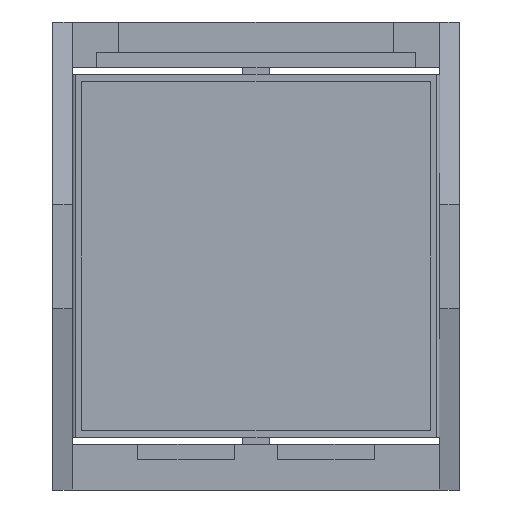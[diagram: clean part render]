
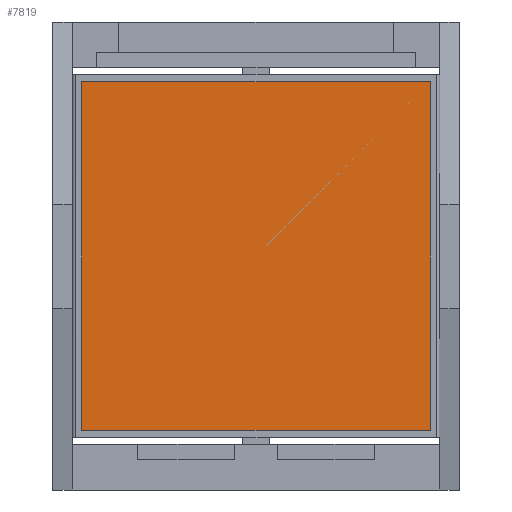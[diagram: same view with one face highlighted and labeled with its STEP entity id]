
A CAD part, front view. The second image highlights one B-rep face of the part: STEP entity #7819.
In plain terms, the highlighted planar face has unit normal (0, -1, 0).
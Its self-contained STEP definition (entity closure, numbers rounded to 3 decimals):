
#175 = CARTESIAN_POINT ( 'NONE',  ( 12.7, -0.127, 12.7 ) ) ;
#406 = CARTESIAN_POINT ( 'NONE',  ( 12.7, -0.127, -12.7 ) ) ;
#610 = CARTESIAN_POINT ( 'NONE',  ( -12.7, -0.127, -12.7 ) ) ;
#647 = CARTESIAN_POINT ( 'NONE',  ( 12.7, -0.127, -12.7 ) ) ;
#854 = ORIENTED_EDGE ( 'NONE', *, *, #2829, .F. ) ;
#1001 = ORIENTED_EDGE ( 'NONE', *, *, #4294, .F. ) ;
#1225 = LINE ( 'NONE', #406, #2814 ) ;
#1683 = CARTESIAN_POINT ( 'NONE',  ( -12.7, -0.127, 12.7 ) ) ;
#1789 = DIRECTION ( 'NONE',  ( 0., 1., 0. ) ) ;
#1914 = ORIENTED_EDGE ( 'NONE', *, *, #6396, .F. ) ;
#1966 = VERTEX_POINT ( 'NONE', #7889 ) ;
#2528 = LINE ( 'NONE', #5643, #6627 ) ;
#2691 = EDGE_CURVE ( 'NONE', #5415, #8081, #1225, .T. ) ;
#2814 = VECTOR ( 'NONE', #2914, 1000. ) ;
#2829 = EDGE_CURVE ( 'NONE', #8081, #1966, #7573, .T. ) ;
#2914 = DIRECTION ( 'NONE',  ( 0., 0., -1. ) ) ;
#3124 = DIRECTION ( 'NONE',  ( -1., 0., 0. ) ) ;
#3493 = CARTESIAN_POINT ( 'NONE',  ( -12.7, -0.127, -12.7 ) ) ;
#3620 = ORIENTED_EDGE ( 'NONE', *, *, #2691, .F. ) ;
#3758 = CARTESIAN_POINT ( 'NONE',  ( -12.7, -0.127, 12.7 ) ) ;
#4263 = VECTOR ( 'NONE', #6564, 1000. ) ;
#4294 = EDGE_CURVE ( 'NONE', #1966, #7960, #7171, .T. ) ;
#5201 = DIRECTION ( 'NONE',  ( 1., 0., 0. ) ) ;
#5400 = FACE_OUTER_BOUND ( 'NONE', #6031, .T. ) ;
#5415 = VERTEX_POINT ( 'NONE', #175 ) ;
#5643 = CARTESIAN_POINT ( 'NONE',  ( -12.7, -0.127, 12.7 ) ) ;
#6031 = EDGE_LOOP ( 'NONE', ( #1001, #854, #3620, #1914 ) ) ;
#6138 = DIRECTION ( 'NONE',  ( 0., 0., 1. ) ) ;
#6396 = EDGE_CURVE ( 'NONE', #7960, #5415, #2528, .T. ) ;
#6479 = VECTOR ( 'NONE', #3124, 1000. ) ;
#6564 = DIRECTION ( 'NONE',  ( 0., 0., 1. ) ) ;
#6627 = VECTOR ( 'NONE', #5201, 1000. ) ;
#7171 = LINE ( 'NONE', #3493, #4263 ) ;
#7252 = AXIS2_PLACEMENT_3D ( 'NONE', #3758, #1789, #6138 ) ;
#7573 = LINE ( 'NONE', #610, #6479 ) ;
#7819 = ADVANCED_FACE ( 'NONE', ( #5400 ), #7870, .F. ) ;
#7870 = PLANE ( 'NONE',  #7252 ) ;
#7889 = CARTESIAN_POINT ( 'NONE',  ( -12.7, -0.127, -12.7 ) ) ;
#7960 = VERTEX_POINT ( 'NONE', #1683 ) ;
#8081 = VERTEX_POINT ( 'NONE', #647 ) ;
